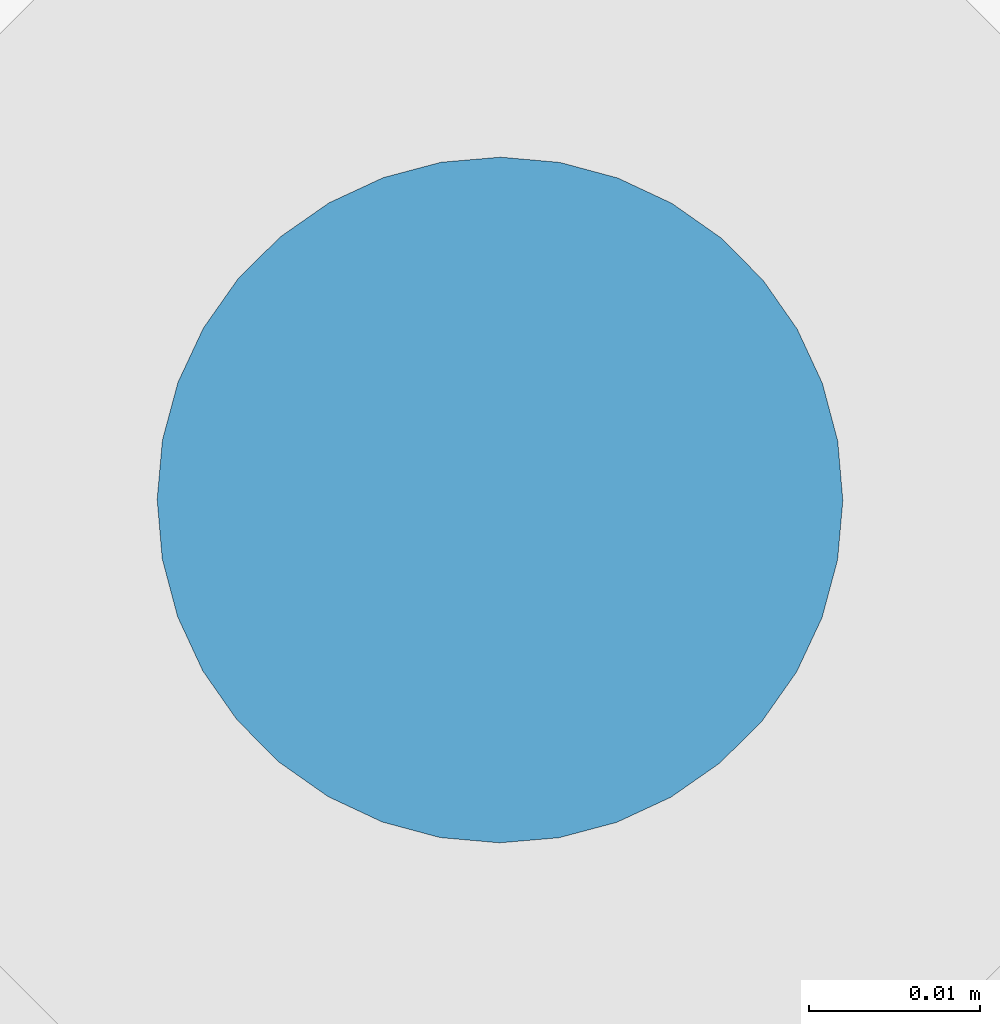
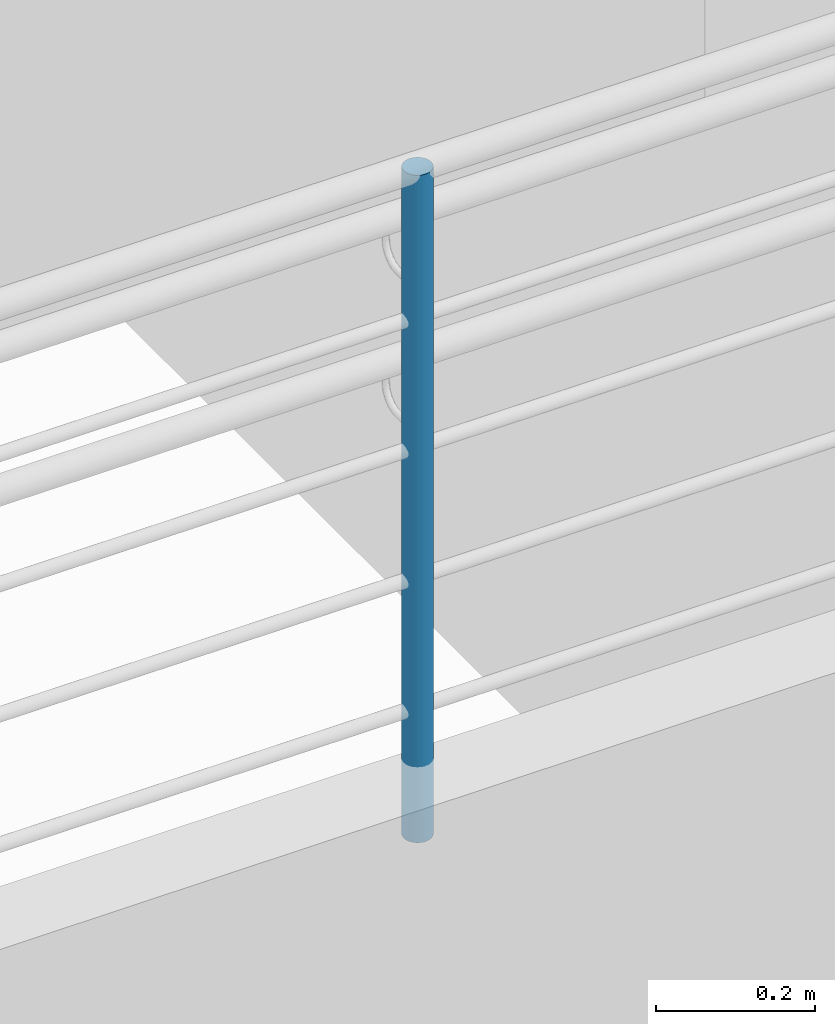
# One storey, part 41 of 237: 1 building element part, 1 element without a shape of its own.
"""IFC2X3 building model written with IfcOpenShell, lengths in millimetres."""

from ifc_helpers import new_model, entity, si_unit, converted_unit, derived_unit, money_unit, direction, frame, origin_with_axes, place, context, subcontext, project, spatial, faceted_brep, material, type_object, element, aggregate, save


model = new_model("IFC2X3")

# Units and contexts
model_context = context("Model", 3, precision=0.01, world=origin_with_axes(), true_north=direction((0.0, 1.0)))
body_context = subcontext(model_context, "Body", "Model", "MODEL_VIEW")
ifc_project = project(units=[si_unit("LENGTHUNIT", "METRE", prefix="MILLI"), si_unit("AREAUNIT", "SQUARE_METRE"), si_unit("VOLUMEUNIT", "CUBIC_METRE"), converted_unit("PLANEANGLEUNIT", "DEGREE", entity("IfcPlaneAngleMeasure", 0.0174532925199), si_unit("PLANEANGLEUNIT", "RADIAN"), dimensions=[0, 0, 0, 0, 0, 0, 0]), money_unit("USD"), converted_unit("TIMEUNIT", "Year", entity("IfcTimeMeasure", 31556926.0), si_unit("TIMEUNIT", "SECOND"), dimensions=[0, 0, 1, 0, 0, 0, 0]), si_unit("MASSUNIT", "GRAM", prefix="KILO"), si_unit("THERMODYNAMICTEMPERATUREUNIT", "DEGREE_CELSIUS"), si_unit("LUMINOUSINTENSITYUNIT", "LUMEN"), si_unit("ENERGYUNIT", "JOULE", prefix="MEGA"), derived_unit("THERMALCONDUCTANCEUNIT", [(si_unit("POWERUNIT", "WATT"), 1), (si_unit("LENGTHUNIT", "METRE"), -1), (si_unit("THERMODYNAMICTEMPERATUREUNIT", "KELVIN"), -1)]), derived_unit("SPECIFICHEATCAPACITYUNIT", [(si_unit("ENERGYUNIT", "JOULE"), 1), (si_unit("MASSUNIT", "GRAM", prefix="KILO"), -1), (si_unit("THERMODYNAMICTEMPERATUREUNIT", "KELVIN"), -1)]), derived_unit("MASSDENSITYUNIT", [(si_unit("MASSUNIT", "GRAM", prefix="KILO"), 1), (si_unit("VOLUMEUNIT", "CUBIC_METRE"), -1)])], contexts=[model_context])

# Site, building, storey
site_placement = place(None, origin_with_axes())
site = spatial("IfcSite", under=ifc_project, at=site_placement, Name="Local", CompositionType="ELEMENT")
building_placement = place(site_placement, origin_with_axes())
building = spatial("IfcBuilding", under=site, at=building_placement, Name="Construção", CompositionType="ELEMENT")
storey_placement = place(building_placement, origin_with_axes())
storey = spatial("IfcBuildingStorey", under=building, at=storey_placement, Name="Pavimento Térreo", CompositionType="ELEMENT", Elevation=0.0)

# Railing, building element part
railing_type = type_object("IfcRailingType", Name="Tipo de Guarda-Corpo", PredefinedType="NOTDEFINED")
railing_placement = place(storey_placement, frame((70326.6870103, 28675.2458388, -1357.10819655), z_axis=(0.0, 0.0, 1.0), x_axis=(1.0, 0.0, 0.0)))
railing = element("IfcRailing", 1, at=railing_placement, inside=storey, type_object=railing_type, Name="Guarda-Corpo - 004", PredefinedType="NOTDEFINED")
ifc_material = material(Name="Aço - Inoxidável")
building_element_part_placement = place(railing_placement, origin_with_axes())
building_element_part = element("IfcBuildingElementPart", 2, at=building_element_part_placement, material=ifc_material, Name="Aço - Inoxidável", context=body_context, shape_type="Brep", body=[
    faceted_brep([(-6989.34109974, -1868.80199969, 5.0), (-6985.86862576, -1869.1113895, 5.0), (-6985.86862576, -1869.1113895, 1030.0), (-6989.34109974, -1868.80199969, 1030.0), (-6982.39518149, -1868.8130902, 5.0), (-6992.70709407, -1867.89432144, 5.0), (-6995.8643347, -1866.41593407, 5.0), (-6998.71689047, -1864.41175765, 5.0), (-7001.17808794, -1861.94268806, 5.0), (-7003.17314485, -1859.08374674, 5.0), (-7004.64144241, -1855.92180115, 5.0), (-7005.53836714, -1852.55292543, 5.0), (-7005.83666644, -1849.07948116, 5.0), (-7005.52727664, -1845.60700718, 5.0), (-7004.61959838, -1842.24101286, 5.0), (-7003.14121102, -1839.08377223, 5.0), (-7001.1370346, -1836.23121645, 5.0), (-6998.66796501, -1833.77001899, 5.0), (-6995.80902368, -1831.77496208, 5.0), (-6992.6470781, -1830.30666452, 5.0), (-6989.27820238, -1829.40973979, 5.0), (-6985.80475811, -1829.11144048, 5.0), (-6982.33228413, -1829.42083029, 5.0), (-6978.9662898, -1830.32850854, 5.0), (-6975.80904917, -1831.80689591, 5.0), (-6972.9564934, -1833.81107233, 5.0), (-6970.49529593, -1836.28014192, 5.0), (-6968.50023902, -1839.13908325, 5.0), (-6967.03194146, -1842.30102883, 5.0), (-6966.13501673, -1845.66990455, 5.0), (-6965.83671743, -1849.14334882, 5.0), (-6966.14610723, -1852.6158228, 5.0), (-6967.05378549, -1855.98181712, 5.0), (-6968.53217285, -1859.13905775, 5.0), (-6970.53634927, -1861.99161353, 5.0), (-6973.00541886, -1864.45281099, 5.0), (-6975.86436019, -1866.4478679, 5.0), (-6979.02630577, -1867.91616546, 5.0), (-6982.39518149, -1868.8130902, 1030.0), (-7005.52727664, -1845.60700718, 1030.0), (-7005.83666644, -1849.07948116, 1030.0), (-7005.53836714, -1852.55292543, 1030.0), (-7004.64144241, -1855.92180115, 1030.0), (-7003.17314485, -1859.08374674, 1030.0), (-7001.17808794, -1861.94268806, 1030.0), (-6998.71689047, -1864.41175765, 1030.0), (-6995.8643347, -1866.41593407, 1030.0), (-6992.70709407, -1867.89432144, 1030.0), (-6979.02630577, -1867.91616546, 1030.0), (-6975.86436019, -1866.4478679, 1030.0), (-6973.00541886, -1864.45281099, 1030.0), (-6970.53634927, -1861.99161353, 1030.0), (-6968.53217285, -1859.13905775, 1030.0), (-6967.05378549, -1855.98181712, 1030.0), (-6966.14610723, -1852.6158228, 1030.0), (-6965.83671743, -1849.14334882, 1030.0), (-6966.13501673, -1845.66990455, 1030.0), (-6967.03194146, -1842.30102883, 1030.0), (-6968.50023902, -1839.13908325, 1030.0), (-6970.49529593, -1836.28014192, 1030.0), (-6972.9564934, -1833.81107233, 1030.0), (-6975.80904917, -1831.80689591, 1030.0), (-6978.9662898, -1830.32850854, 1030.0), (-6982.33228413, -1829.42083029, 1030.0), (-6985.80475811, -1829.11144048, 1030.0), (-6989.27820238, -1829.40973979, 1030.0), (-6992.6470781, -1830.30666452, 1030.0), (-6995.80902368, -1831.77496208, 1030.0), (-6998.66796501, -1833.77001899, 1030.0), (-7001.1370346, -1836.23121645, 1030.0), (-7003.14121102, -1839.08377223, 1030.0), (-7004.61959838, -1842.24101286, 1030.0)], [[[0, 1, 2, 3]], [[4, 1, 0, 5, 6, 7, 8, 9, 10, 11, 12, 13, 14, 15, 16, 17, 18, 19, 20, 21, 22, 23, 24, 25, 26, 27, 28, 29, 30, 31, 32, 33, 34, 35, 36, 37]], [[1, 4, 38, 2]], [[39, 40, 41, 42, 43, 44, 45, 46, 47, 3, 2, 38, 48, 49, 50, 51, 52, 53, 54, 55, 56, 57, 58, 59, 60, 61, 62, 63, 64, 65, 66, 67, 68, 69, 70, 71]], [[5, 0, 3, 47]], [[6, 5, 47, 46]], [[7, 6, 46, 45]], [[8, 7, 45, 44]], [[9, 8, 44, 43]], [[10, 9, 43, 42]], [[11, 10, 42, 41]], [[12, 11, 41, 40]], [[13, 12, 40, 39]], [[14, 13, 39, 71]], [[15, 14, 71, 70]], [[16, 15, 70, 69]], [[17, 16, 69, 68]], [[18, 17, 68, 67]], [[19, 18, 67, 66]], [[20, 19, 66, 65]], [[21, 20, 65, 64]], [[22, 21, 64, 63]], [[23, 22, 63, 62]], [[24, 23, 62, 61]], [[25, 24, 61, 60]], [[26, 25, 60, 59]], [[27, 26, 59, 58]], [[28, 27, 58, 57]], [[29, 28, 57, 56]], [[30, 29, 56, 55]], [[31, 30, 55, 54]], [[32, 31, 54, 53]], [[33, 32, 53, 52]], [[34, 33, 52, 51]], [[35, 34, 51, 50]], [[36, 35, 50, 49]], [[37, 36, 49, 48]], [[4, 37, 48, 38]]]),
])
aggregate(railing, [building_element_part])

save(model, "model.ifc")
